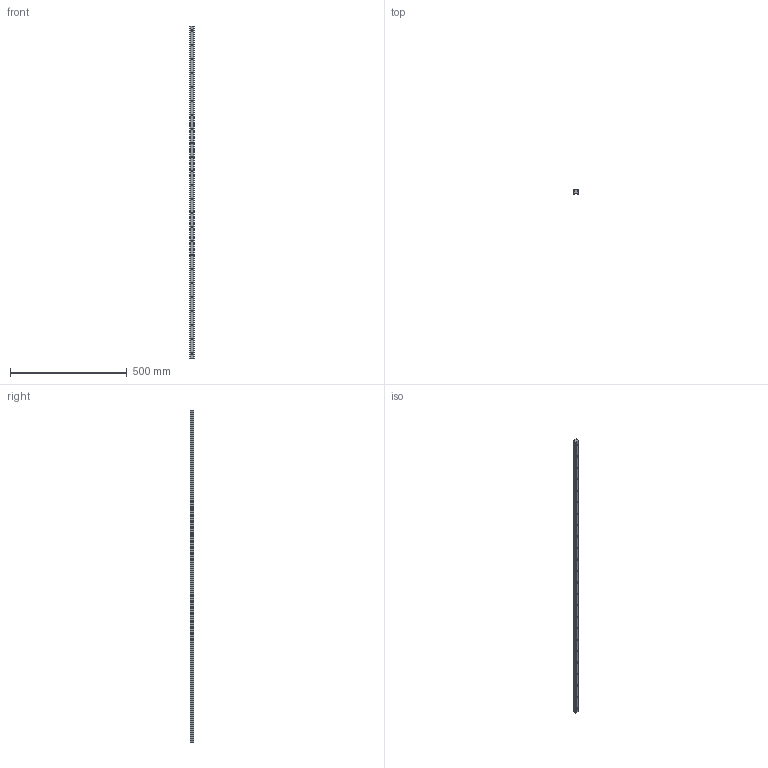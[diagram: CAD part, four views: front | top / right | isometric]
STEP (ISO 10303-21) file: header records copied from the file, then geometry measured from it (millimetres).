
FILE_DESCRIPTION (( 'STEP AP203' ), '1' );
FILE_NAME ('L1016.BL20-1420.step', '2019-06-12T11:49:22', ( '' ), ( '' ), 'SwSTEP 2.0', 'SolidWorks 2017', '' );
FILE_SCHEMA (( 'CONFIG_CONTROL_DESIGN' ));
Length unit declared in the file: millimetre
Products named in the file (1): L1016.BL20-1420
Bounding box: 20 x 16.3 x 1420 mm (x, y, z)
Volume: 394583.4 mm3; surface area: 114576.5 mm2
Topology: 1 solids, 1 shells, 146 faces, 360 edges, 240 vertices
Faces by surface type: cylinder 100, plane 46
Entity records: 4597 total; most frequent: DIRECTION 854, CARTESIAN_POINT 747, ORIENTED_EDGE 720, EDGE_CURVE 360, AXIS2_PLACEMENT_3D 347, VERTEX_POINT 240, EDGE_LOOP 218, CIRCLE 200
